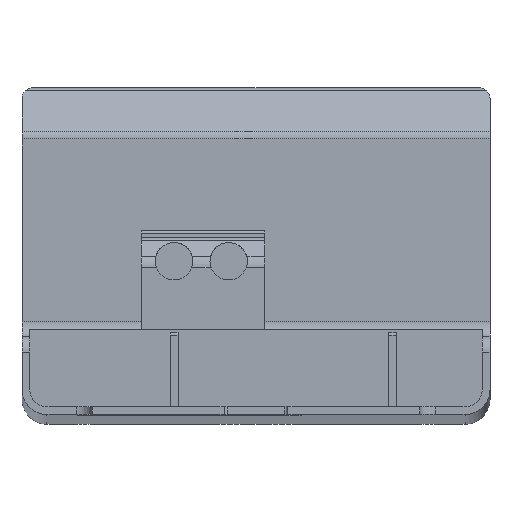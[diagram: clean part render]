
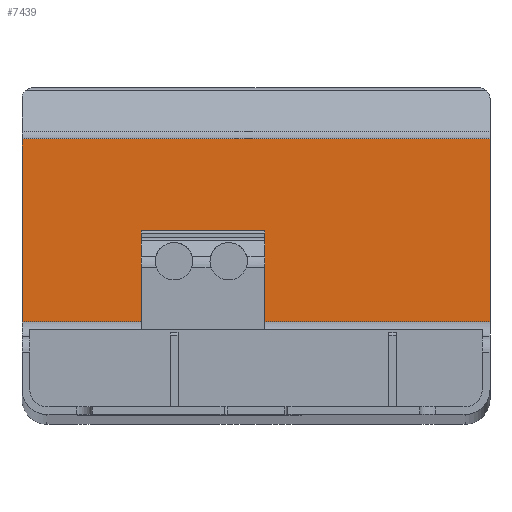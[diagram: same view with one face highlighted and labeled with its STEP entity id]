
A CAD part, top view. The second image highlights one B-rep face of the part: STEP entity #7439.
In plain terms, the highlighted planar face has unit normal (0, 0, 1).
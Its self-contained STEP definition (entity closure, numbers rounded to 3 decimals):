
#1712=DIRECTION('',(1.,0.,0.));
#1713=VECTOR('',#1712,30.);
#1714=CARTESIAN_POINT('',(-15.,6.,150.7));
#1715=LINE('',#1714,#1713);
#2198=DIRECTION('',(0.,1.,0.));
#2199=VECTOR('',#2198,11.71);
#2200=CARTESIAN_POINT('',(-15.,6.,150.7));
#2201=LINE('',#2200,#2199);
#2205=DIRECTION('',(1.,0.,0.));
#2206=VECTOR('',#2205,30.);
#2207=CARTESIAN_POINT('',(-15.,17.71,150.7));
#2208=LINE('',#2207,#2206);
#2212=DIRECTION('',(0.,-1.,0.));
#2213=VECTOR('',#2212,11.71);
#2214=CARTESIAN_POINT('',(15.,17.71,150.7));
#2215=LINE('',#2214,#2213);
#5602=CARTESIAN_POINT('',(-15.,17.71,150.7));
#5603=CARTESIAN_POINT('',(15.,17.71,150.7));
#5604=VERTEX_POINT('',#5602);
#5605=VERTEX_POINT('',#5603);
#5930=CARTESIAN_POINT('',(15.,6.,150.7));
#5931=VERTEX_POINT('',#5930);
#5932=CARTESIAN_POINT('',(-15.,6.,150.7));
#5933=VERTEX_POINT('',#5932);
#7427=CARTESIAN_POINT('',(-15.,5.45,150.7));
#7428=DIRECTION('',(0.,0.,1.));
#7429=DIRECTION('',(0.,1.,0.));
#7430=AXIS2_PLACEMENT_3D('',#7427,#7428,#7429);
#7431=PLANE('',#7430);
#7432=ORIENTED_EDGE('',*,*,#7065,.F.);
#7433=ORIENTED_EDGE('',*,*,#5991,.T.);
#7435=ORIENTED_EDGE('',*,*,#7434,.T.);
#7436=ORIENTED_EDGE('',*,*,#6171,.T.);
#7437=EDGE_LOOP('',(#7432,#7433,#7435,#7436));
#7438=FACE_OUTER_BOUND('',#7437,.F.);
#5991=EDGE_CURVE('',#5933,#5604,#2201,.T.);
#6171=EDGE_CURVE('',#5605,#5931,#2215,.T.);
#7065=EDGE_CURVE('',#5933,#5931,#1715,.T.);
#7434=EDGE_CURVE('',#5604,#5605,#2208,.T.);
#7439=ADVANCED_FACE('',(#7438),#7431,.T.);
